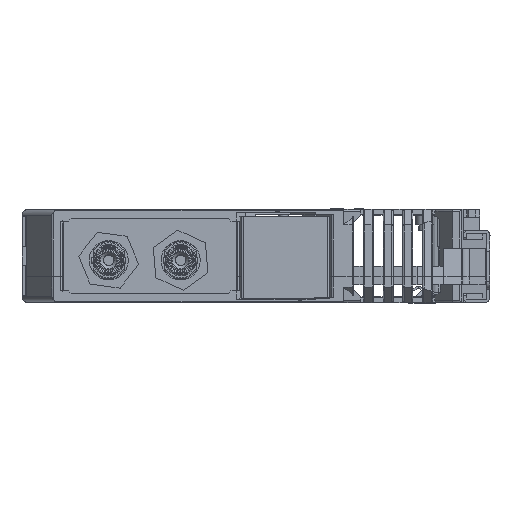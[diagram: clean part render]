
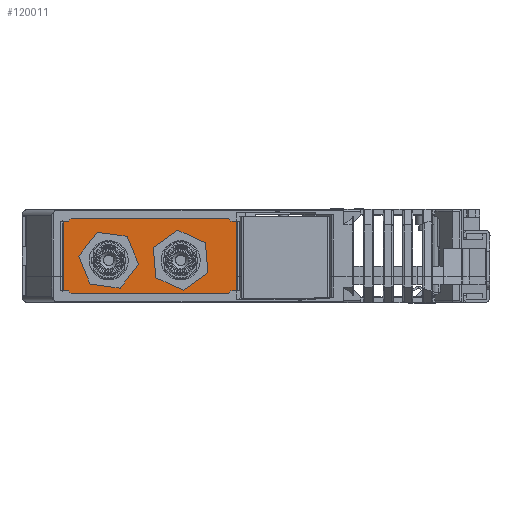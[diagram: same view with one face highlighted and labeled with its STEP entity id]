
A CAD part, left-side view. The second image highlights one B-rep face of the part: STEP entity #120011.
In plain terms, the highlighted planar face has unit normal (-1, 0, 0) as drawn and (1, 0, 0) by its records, which use the part's own axes.
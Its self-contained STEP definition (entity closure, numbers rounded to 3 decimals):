
#2375=CIRCLE('',#127118,5.);
#2376=CIRCLE('',#127119,5.);
#2378=CIRCLE('',#127122,5.);
#2379=CIRCLE('',#127123,5.);
#3645=FACE_BOUND('',#17079,.T.);
#3646=FACE_BOUND('',#17080,.T.);
#10427=FACE_OUTER_BOUND('',#17078,.T.);
#17078=EDGE_LOOP('',(#96497,#96498,#96499,#96500));
#17079=EDGE_LOOP('',(#96501,#96502));
#17080=EDGE_LOOP('',(#96503,#96504));
#28071=LINE('',#194500,#41268);
#28073=LINE('',#194506,#41270);
#28078=LINE('',#194530,#41275);
#28079=LINE('',#194532,#41276);
#41268=VECTOR('',#147806,1.);
#41270=VECTOR('',#147810,1.);
#41275=VECTOR('',#147835,1.);
#41276=VECTOR('',#147838,1.);
#53222=VERTEX_POINT('',#194477);
#53223=VERTEX_POINT('',#194478);
#53225=VERTEX_POINT('',#194485);
#53226=VERTEX_POINT('',#194486);
#53228=VERTEX_POINT('',#194493);
#53231=VERTEX_POINT('',#194498);
#53232=VERTEX_POINT('',#194502);
#53234=VERTEX_POINT('',#194505);
#68217=EDGE_CURVE('',#53222,#53223,#2375,.T.);
#68218=EDGE_CURVE('',#53223,#53222,#2376,.T.);
#68221=EDGE_CURVE('',#53225,#53226,#2378,.T.);
#68222=EDGE_CURVE('',#53226,#53225,#2379,.T.);
#68228=EDGE_CURVE('',#53228,#53231,#28071,.T.);
#68230=EDGE_CURVE('',#53232,#53234,#28073,.T.);
#68243=EDGE_CURVE('',#53228,#53232,#28078,.T.);
#68244=EDGE_CURVE('',#53234,#53231,#28079,.T.);
#96497=ORIENTED_EDGE('',*,*,#68243,.F.);
#96498=ORIENTED_EDGE('',*,*,#68228,.T.);
#96499=ORIENTED_EDGE('',*,*,#68244,.F.);
#96500=ORIENTED_EDGE('',*,*,#68230,.F.);
#96501=ORIENTED_EDGE('',*,*,#68217,.T.);
#96502=ORIENTED_EDGE('',*,*,#68218,.T.);
#96503=ORIENTED_EDGE('',*,*,#68221,.T.);
#96504=ORIENTED_EDGE('',*,*,#68222,.T.);
#110993=PLANE('',#127138);
#120011=ADVANCED_FACE('',(#10427,#3645,#3646),#110993,.F.);
#127118=AXIS2_PLACEMENT_3D('',#194479,#147785,#147786);
#127119=AXIS2_PLACEMENT_3D('',#194480,#147787,#147788);
#127122=AXIS2_PLACEMENT_3D('',#194487,#147794,#147795);
#127123=AXIS2_PLACEMENT_3D('',#194488,#147796,#147797);
#127138=AXIS2_PLACEMENT_3D('',#194533,#147839,#147840);
#147785=DIRECTION('center_axis',(-1.,0.,0.));
#147786=DIRECTION('ref_axis',(0.,0.,-1.));
#147787=DIRECTION('center_axis',(-1.,0.,0.));
#147788=DIRECTION('ref_axis',(0.,0.,-1.));
#147794=DIRECTION('center_axis',(-1.,0.,0.));
#147795=DIRECTION('ref_axis',(0.,0.,-1.));
#147796=DIRECTION('center_axis',(-1.,0.,0.));
#147797=DIRECTION('ref_axis',(0.,0.,-1.));
#147806=DIRECTION('',(0.,0.,-1.));
#147810=DIRECTION('',(0.,0.,-1.));
#147835=DIRECTION('',(0.,1.,0.));
#147838=DIRECTION('',(0.,-1.,0.));
#147839=DIRECTION('center_axis',(-1.,0.,0.));
#147840=DIRECTION('ref_axis',(0.,1.,0.));
#194477=CARTESIAN_POINT('',(8.749,123.363,-12.744));
#194478=CARTESIAN_POINT('',(8.749,123.363,-2.744));
#194479=CARTESIAN_POINT('Origin',(8.749,123.363,-7.744));
#194480=CARTESIAN_POINT('Origin',(8.749,123.363,-7.744));
#194485=CARTESIAN_POINT('',(8.749,105.898,-12.744));
#194486=CARTESIAN_POINT('',(8.749,105.898,-2.744));
#194487=CARTESIAN_POINT('Origin',(8.749,105.898,-7.744));
#194488=CARTESIAN_POINT('Origin',(8.749,105.898,-7.744));
#194493=CARTESIAN_POINT('',(8.749,92.56,0.75));
#194498=CARTESIAN_POINT('',(8.749,92.56,-18.45));
#194500=CARTESIAN_POINT('',(8.749,92.56,0.));
#194502=CARTESIAN_POINT('',(8.749,134.56,0.75));
#194505=CARTESIAN_POINT('',(8.749,134.56,-18.45));
#194506=CARTESIAN_POINT('',(8.749,134.56,0.));
#194530=CARTESIAN_POINT('',(8.749,0.,0.75));
#194532=CARTESIAN_POINT('',(8.749,0.,-18.45));
#194533=CARTESIAN_POINT('Origin',(8.749,103.311,-19.87));
